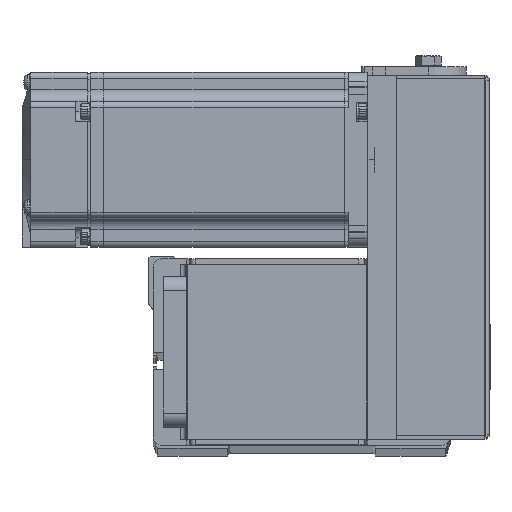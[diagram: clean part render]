
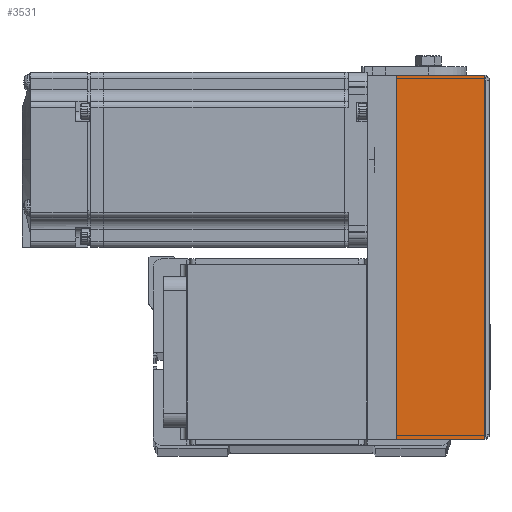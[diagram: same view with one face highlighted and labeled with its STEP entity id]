
A CAD part, top view. The second image highlights one B-rep face of the part: STEP entity #3531.
In plain terms, the highlighted planar face has unit normal (0, 0, 1) as drawn and (0, 0, -1) by its records, which use the part's own axes.
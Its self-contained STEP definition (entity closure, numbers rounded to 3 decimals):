
#155 = VERTEX_POINT ( 'NONE', #506 ) ;
#506 = CARTESIAN_POINT ( 'NONE',  ( -62.5, -30.3, -31. ) ) ;
#1082 = LINE ( 'NONE', #27761, #29409 ) ;
#1129 = VERTEX_POINT ( 'NONE', #39258 ) ;
#1732 = LINE ( 'NONE', #13036, #30718 ) ;
#3531 = ADVANCED_FACE ( 'NONE', ( #26803 ), #30908, .F. ) ;
#3752 = CARTESIAN_POINT ( 'NONE',  ( 62.5, 0., -31. ) ) ;
#5799 = ORIENTED_EDGE ( 'NONE', *, *, #13040, .F. ) ;
#13036 = CARTESIAN_POINT ( 'NONE',  ( -62.5, -30.3, -31. ) ) ;
#13040 = EDGE_CURVE ( 'NONE', #155, #35262, #31317, .T. ) ;
#14213 = CARTESIAN_POINT ( 'NONE',  ( 62.5, -30.3, -31. ) ) ;
#17330 = ORIENTED_EDGE ( 'NONE', *, *, #20221, .T. ) ;
#18166 = EDGE_CURVE ( 'NONE', #35262, #36240, #27035, .T. ) ;
#20221 = EDGE_CURVE ( 'NONE', #155, #1129, #1732, .T. ) ;
#25815 = ORIENTED_EDGE ( 'NONE', *, *, #18166, .F. ) ;
#26545 = DIRECTION ( 'NONE',  ( 0., 1., 0. ) ) ;
#26764 = DIRECTION ( 'NONE',  ( 0., 1., 0. ) ) ;
#26803 = FACE_OUTER_BOUND ( 'NONE', #29363, .T. ) ;
#27035 = LINE ( 'NONE', #50376, #35678 ) ;
#27761 = CARTESIAN_POINT ( 'NONE',  ( 0., 0., -31. ) ) ;
#28915 = DIRECTION ( 'NONE',  ( 0., 1., 0. ) ) ;
#29363 = EDGE_LOOP ( 'NONE', ( #5799, #17330, #37756, #25815 ) ) ;
#29409 = VECTOR ( 'NONE', #31872, 1000. ) ;
#30718 = VECTOR ( 'NONE', #28915, 1000. ) ;
#30908 = PLANE ( 'NONE',  #38242 ) ;
#31317 = LINE ( 'NONE', #38547, #39354 ) ;
#31872 = DIRECTION ( 'NONE',  ( 1., 0., 0. ) ) ;
#34549 = DIRECTION ( 'NONE',  ( 0., 0., 1. ) ) ;
#35262 = VERTEX_POINT ( 'NONE', #14213 ) ;
#35678 = VECTOR ( 'NONE', #26764, 1000. ) ;
#36240 = VERTEX_POINT ( 'NONE', #3752 ) ;
#37756 = ORIENTED_EDGE ( 'NONE', *, *, #46002, .T. ) ;
#38242 = AXIS2_PLACEMENT_3D ( 'NONE', #38633, #34549, #26545 ) ;
#38547 = CARTESIAN_POINT ( 'NONE',  ( 62.5, -30.3, -31. ) ) ;
#38633 = CARTESIAN_POINT ( 'NONE',  ( 0., -30.8, -31. ) ) ;
#38777 = DIRECTION ( 'NONE',  ( 1., 0., 0. ) ) ;
#39258 = CARTESIAN_POINT ( 'NONE',  ( -62.5, 0., -31. ) ) ;
#39354 = VECTOR ( 'NONE', #38777, 1000. ) ;
#46002 = EDGE_CURVE ( 'NONE', #1129, #36240, #1082, .T. ) ;
#50376 = CARTESIAN_POINT ( 'NONE',  ( 62.5, -30.3, -31. ) ) ;
